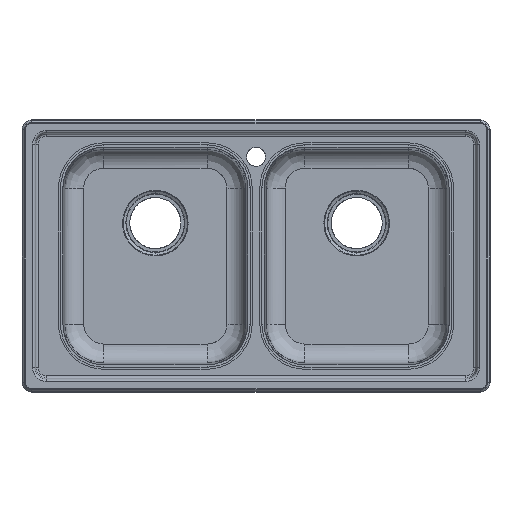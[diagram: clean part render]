
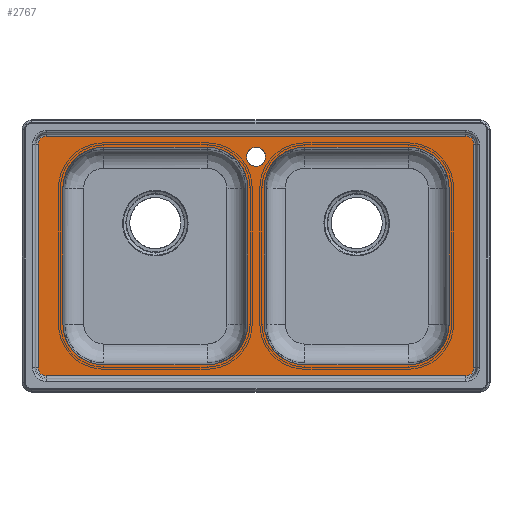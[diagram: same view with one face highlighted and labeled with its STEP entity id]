
A CAD part, top view. The second image highlights one B-rep face of the part: STEP entity #2767.
In plain terms, the highlighted planar face has unit normal (0, 0, 1).
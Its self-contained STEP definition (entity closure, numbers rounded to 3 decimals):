
#2389=CARTESIAN_POINT('Axis2P3D Location',(385.5,205.5,6.)) ;
#2393=CARTESIAN_POINT('Vertex',(385.5,220.431,6.)) ;
#2395=CARTESIAN_POINT('Vertex',(400.431,205.5,6.)) ;
#2420=CARTESIAN_POINT('Line Origine',(400.431,0.,6.)) ;
#2424=CARTESIAN_POINT('Vertex',(400.431,-205.5,6.)) ;
#2444=CARTESIAN_POINT('Axis2P3D Location',(385.5,-205.5,6.)) ;
#2448=CARTESIAN_POINT('Vertex',(385.5,-220.431,6.)) ;
#2468=CARTESIAN_POINT('Line Origine',(0.,-220.431,6.)) ;
#2472=CARTESIAN_POINT('Vertex',(-385.5,-220.431,6.)) ;
#2492=CARTESIAN_POINT('Axis2P3D Location',(-385.5,-205.5,6.)) ;
#2496=CARTESIAN_POINT('Vertex',(-400.431,-205.5,6.)) ;
#2516=CARTESIAN_POINT('Line Origine',(-400.431,0.,6.)) ;
#2520=CARTESIAN_POINT('Vertex',(-400.431,205.5,6.)) ;
#2540=CARTESIAN_POINT('Axis2P3D Location',(-385.5,205.5,6.)) ;
#2544=CARTESIAN_POINT('Vertex',(-385.5,220.431,6.)) ;
#2564=CARTESIAN_POINT('Line Origine',(0.,220.431,6.)) ;
#2602=CARTESIAN_POINT('Axis2P3D Location',(0.,0.,6.)) ;
#2617=CARTESIAN_POINT('Axis2P3D Location',(0.,182.3,6.)) ;
#2621=CARTESIAN_POINT('Vertex',(17.5,182.3,6.)) ;
#2623=CARTESIAN_POINT('Vertex',(-17.5,182.3,6.)) ;
#2626=CARTESIAN_POINT('Axis2P3D Location',(0.,182.3,6.)) ;
#2635=CARTESIAN_POINT('Axis2P3D Location',(-89.5,-125.5,6.)) ;
#2639=CARTESIAN_POINT('Vertex',(-89.5,-199.8,6.)) ;
#2641=CARTESIAN_POINT('Vertex',(-15.2,-125.5,6.)) ;
#2644=CARTESIAN_POINT('Line Origine',(-185.,-199.8,6.)) ;
#2648=CARTESIAN_POINT('Vertex',(-280.5,-199.8,6.)) ;
#2651=CARTESIAN_POINT('Axis2P3D Location',(-280.5,-125.5,6.)) ;
#2655=CARTESIAN_POINT('Vertex',(-354.8,-125.5,6.)) ;
#2658=CARTESIAN_POINT('Line Origine',(-354.8,0.,6.)) ;
#2662=CARTESIAN_POINT('Vertex',(-354.8,125.5,6.)) ;
#2665=CARTESIAN_POINT('Axis2P3D Location',(-280.5,125.5,6.)) ;
#2669=CARTESIAN_POINT('Vertex',(-280.5,199.8,6.)) ;
#2672=CARTESIAN_POINT('Line Origine',(-185.,199.8,6.)) ;
#2676=CARTESIAN_POINT('Vertex',(-89.5,199.8,6.)) ;
#2679=CARTESIAN_POINT('Axis2P3D Location',(-89.5,125.5,6.)) ;
#2683=CARTESIAN_POINT('Vertex',(-15.2,125.5,6.)) ;
#2686=CARTESIAN_POINT('Line Origine',(-15.2,0.,6.)) ;
#2701=CARTESIAN_POINT('Line Origine',(185.,199.8,6.)) ;
#2705=CARTESIAN_POINT('Vertex',(280.5,199.8,6.)) ;
#2707=CARTESIAN_POINT('Vertex',(89.5,199.8,6.)) ;
#2710=CARTESIAN_POINT('Axis2P3D Location',(280.5,125.5,6.)) ;
#2714=CARTESIAN_POINT('Vertex',(354.8,125.5,6.)) ;
#2717=CARTESIAN_POINT('Line Origine',(354.8,0.,6.)) ;
#2721=CARTESIAN_POINT('Vertex',(354.8,-125.5,6.)) ;
#2724=CARTESIAN_POINT('Axis2P3D Location',(280.5,-125.5,6.)) ;
#2728=CARTESIAN_POINT('Vertex',(280.5,-199.8,6.)) ;
#2731=CARTESIAN_POINT('Line Origine',(185.,-199.8,6.)) ;
#2735=CARTESIAN_POINT('Vertex',(89.5,-199.8,6.)) ;
#2738=CARTESIAN_POINT('Axis2P3D Location',(89.5,-125.5,6.)) ;
#2742=CARTESIAN_POINT('Vertex',(15.2,-125.5,6.)) ;
#2745=CARTESIAN_POINT('Line Origine',(15.2,0.,6.)) ;
#2749=CARTESIAN_POINT('Vertex',(15.2,125.5,6.)) ;
#2752=CARTESIAN_POINT('Axis2P3D Location',(89.5,125.5,6.)) ;
#2390=DIRECTION('Axis2P3D Direction',(0.,0.,1.)) ;
#2421=DIRECTION('Vector Direction',(0.,-1.,0.)) ;
#2445=DIRECTION('Axis2P3D Direction',(0.,0.,1.)) ;
#2469=DIRECTION('Vector Direction',(-1.,0.,0.)) ;
#2493=DIRECTION('Axis2P3D Direction',(0.,-0.,1.)) ;
#2517=DIRECTION('Vector Direction',(0.,1.,0.)) ;
#2541=DIRECTION('Axis2P3D Direction',(-0.,0.,1.)) ;
#2565=DIRECTION('Vector Direction',(1.,0.,0.)) ;
#2603=DIRECTION('Axis2P3D Direction',(0.,0.,1.)) ;
#2604=DIRECTION('Axis2P3D XDirection',(1.,0.,0.)) ;
#2618=DIRECTION('Axis2P3D Direction',(0.,0.,1.)) ;
#2627=DIRECTION('Axis2P3D Direction',(0.,0.,1.)) ;
#2636=DIRECTION('Axis2P3D Direction',(0.,0.,1.)) ;
#2645=DIRECTION('Vector Direction',(-1.,0.,0.)) ;
#2652=DIRECTION('Axis2P3D Direction',(0.,0.,1.)) ;
#2659=DIRECTION('Vector Direction',(0.,1.,0.)) ;
#2666=DIRECTION('Axis2P3D Direction',(0.,0.,1.)) ;
#2673=DIRECTION('Vector Direction',(1.,0.,0.)) ;
#2680=DIRECTION('Axis2P3D Direction',(0.,0.,1.)) ;
#2687=DIRECTION('Vector Direction',(0.,-1.,0.)) ;
#2702=DIRECTION('Vector Direction',(-1.,0.,0.)) ;
#2711=DIRECTION('Axis2P3D Direction',(0.,0.,1.)) ;
#2718=DIRECTION('Vector Direction',(0.,1.,0.)) ;
#2725=DIRECTION('Axis2P3D Direction',(0.,0.,1.)) ;
#2732=DIRECTION('Vector Direction',(1.,0.,0.)) ;
#2739=DIRECTION('Axis2P3D Direction',(0.,0.,1.)) ;
#2746=DIRECTION('Vector Direction',(0.,-1.,0.)) ;
#2753=DIRECTION('Axis2P3D Direction',(0.,0.,1.)) ;
#2391=AXIS2_PLACEMENT_3D('Circle Axis2P3D',#2389,#2390,$) ;
#2446=AXIS2_PLACEMENT_3D('Circle Axis2P3D',#2444,#2445,$) ;
#2494=AXIS2_PLACEMENT_3D('Circle Axis2P3D',#2492,#2493,$) ;
#2542=AXIS2_PLACEMENT_3D('Circle Axis2P3D',#2540,#2541,$) ;
#2605=AXIS2_PLACEMENT_3D('Plane Axis2P3D',#2602,#2603,#2604) ;
#2619=AXIS2_PLACEMENT_3D('Circle Axis2P3D',#2617,#2618,$) ;
#2628=AXIS2_PLACEMENT_3D('Circle Axis2P3D',#2626,#2627,$) ;
#2637=AXIS2_PLACEMENT_3D('Circle Axis2P3D',#2635,#2636,$) ;
#2653=AXIS2_PLACEMENT_3D('Circle Axis2P3D',#2651,#2652,$) ;
#2667=AXIS2_PLACEMENT_3D('Circle Axis2P3D',#2665,#2666,$) ;
#2681=AXIS2_PLACEMENT_3D('Circle Axis2P3D',#2679,#2680,$) ;
#2712=AXIS2_PLACEMENT_3D('Circle Axis2P3D',#2710,#2711,$) ;
#2726=AXIS2_PLACEMENT_3D('Circle Axis2P3D',#2724,#2725,$) ;
#2740=AXIS2_PLACEMENT_3D('Circle Axis2P3D',#2738,#2739,$) ;
#2754=AXIS2_PLACEMENT_3D('Circle Axis2P3D',#2752,#2753,$) ;
#2608=ORIENTED_EDGE('',*,*,#2568,.F.) ;
#2609=ORIENTED_EDGE('',*,*,#2546,.F.) ;
#2610=ORIENTED_EDGE('',*,*,#2522,.F.) ;
#2611=ORIENTED_EDGE('',*,*,#2498,.F.) ;
#2612=ORIENTED_EDGE('',*,*,#2474,.F.) ;
#2613=ORIENTED_EDGE('',*,*,#2450,.F.) ;
#2614=ORIENTED_EDGE('',*,*,#2426,.F.) ;
#2615=ORIENTED_EDGE('',*,*,#2397,.F.) ;
#2632=ORIENTED_EDGE('',*,*,#2625,.F.) ;
#2633=ORIENTED_EDGE('',*,*,#2630,.F.) ;
#2692=ORIENTED_EDGE('',*,*,#2643,.F.) ;
#2693=ORIENTED_EDGE('',*,*,#2650,.F.) ;
#2694=ORIENTED_EDGE('',*,*,#2657,.F.) ;
#2695=ORIENTED_EDGE('',*,*,#2664,.F.) ;
#2696=ORIENTED_EDGE('',*,*,#2671,.F.) ;
#2697=ORIENTED_EDGE('',*,*,#2678,.F.) ;
#2698=ORIENTED_EDGE('',*,*,#2685,.F.) ;
#2699=ORIENTED_EDGE('',*,*,#2690,.F.) ;
#2758=ORIENTED_EDGE('',*,*,#2709,.F.) ;
#2759=ORIENTED_EDGE('',*,*,#2716,.F.) ;
#2760=ORIENTED_EDGE('',*,*,#2723,.F.) ;
#2761=ORIENTED_EDGE('',*,*,#2730,.F.) ;
#2762=ORIENTED_EDGE('',*,*,#2737,.F.) ;
#2763=ORIENTED_EDGE('',*,*,#2744,.F.) ;
#2764=ORIENTED_EDGE('',*,*,#2751,.F.) ;
#2765=ORIENTED_EDGE('',*,*,#2756,.F.) ;
#2634=FACE_BOUND('',#2631,.T.) ;
#2700=FACE_BOUND('',#2691,.T.) ;
#2766=FACE_BOUND('',#2757,.T.) ;
#2422=VECTOR('Line Direction',#2421,1.) ;
#2470=VECTOR('Line Direction',#2469,1.) ;
#2518=VECTOR('Line Direction',#2517,1.) ;
#2566=VECTOR('Line Direction',#2565,1.) ;
#2646=VECTOR('Line Direction',#2645,1.) ;
#2660=VECTOR('Line Direction',#2659,1.) ;
#2674=VECTOR('Line Direction',#2673,1.) ;
#2688=VECTOR('Line Direction',#2687,1.) ;
#2703=VECTOR('Line Direction',#2702,1.) ;
#2719=VECTOR('Line Direction',#2718,1.) ;
#2733=VECTOR('Line Direction',#2732,1.) ;
#2747=VECTOR('Line Direction',#2746,1.) ;
#2767=ADVANCED_FACE('PartBody',(#2616,#2634,#2700,#2766),#2606,.T.) ;
#2392=CIRCLE('generated circle',#2391,14.931) ;
#2447=CIRCLE('generated circle',#2446,14.931) ;
#2495=CIRCLE('generated circle',#2494,14.931) ;
#2543=CIRCLE('generated circle',#2542,14.931) ;
#2620=CIRCLE('generated circle',#2619,17.5) ;
#2629=CIRCLE('generated circle',#2628,17.5) ;
#2638=CIRCLE('generated circle',#2637,74.3) ;
#2654=CIRCLE('generated circle',#2653,74.3) ;
#2668=CIRCLE('generated circle',#2667,74.3) ;
#2682=CIRCLE('generated circle',#2681,74.3) ;
#2713=CIRCLE('generated circle',#2712,74.3) ;
#2727=CIRCLE('generated circle',#2726,74.3) ;
#2741=CIRCLE('generated circle',#2740,74.3) ;
#2755=CIRCLE('generated circle',#2754,74.3) ;
#2397=EDGE_CURVE('',#2394,#2396,#2392,.F.) ;
#2426=EDGE_CURVE('',#2396,#2425,#2423,.T.) ;
#2450=EDGE_CURVE('',#2425,#2449,#2447,.F.) ;
#2474=EDGE_CURVE('',#2449,#2473,#2471,.T.) ;
#2498=EDGE_CURVE('',#2473,#2497,#2495,.F.) ;
#2522=EDGE_CURVE('',#2497,#2521,#2519,.T.) ;
#2546=EDGE_CURVE('',#2521,#2545,#2543,.F.) ;
#2568=EDGE_CURVE('',#2545,#2394,#2567,.T.) ;
#2625=EDGE_CURVE('',#2622,#2624,#2620,.T.) ;
#2630=EDGE_CURVE('',#2624,#2622,#2629,.T.) ;
#2643=EDGE_CURVE('',#2640,#2642,#2638,.T.) ;
#2650=EDGE_CURVE('',#2649,#2640,#2647,.F.) ;
#2657=EDGE_CURVE('',#2656,#2649,#2654,.T.) ;
#2664=EDGE_CURVE('',#2663,#2656,#2661,.F.) ;
#2671=EDGE_CURVE('',#2670,#2663,#2668,.T.) ;
#2678=EDGE_CURVE('',#2677,#2670,#2675,.F.) ;
#2685=EDGE_CURVE('',#2684,#2677,#2682,.T.) ;
#2690=EDGE_CURVE('',#2642,#2684,#2689,.F.) ;
#2709=EDGE_CURVE('',#2706,#2708,#2704,.T.) ;
#2716=EDGE_CURVE('',#2715,#2706,#2713,.T.) ;
#2723=EDGE_CURVE('',#2722,#2715,#2720,.T.) ;
#2730=EDGE_CURVE('',#2729,#2722,#2727,.T.) ;
#2737=EDGE_CURVE('',#2736,#2729,#2734,.T.) ;
#2744=EDGE_CURVE('',#2743,#2736,#2741,.T.) ;
#2751=EDGE_CURVE('',#2750,#2743,#2748,.T.) ;
#2756=EDGE_CURVE('',#2708,#2750,#2755,.T.) ;
#2607=EDGE_LOOP('',(#2608,#2609,#2610,#2611,#2612,#2613,#2614,#2615)) ;
#2631=EDGE_LOOP('',(#2632,#2633)) ;
#2691=EDGE_LOOP('',(#2692,#2693,#2694,#2695,#2696,#2697,#2698,#2699)) ;
#2757=EDGE_LOOP('',(#2758,#2759,#2760,#2761,#2762,#2763,#2764,#2765)) ;
#2616=FACE_OUTER_BOUND('',#2607,.T.) ;
#2423=LINE('Line',#2420,#2422) ;
#2471=LINE('Line',#2468,#2470) ;
#2519=LINE('Line',#2516,#2518) ;
#2567=LINE('Line',#2564,#2566) ;
#2647=LINE('Line',#2644,#2646) ;
#2661=LINE('Line',#2658,#2660) ;
#2675=LINE('Line',#2672,#2674) ;
#2689=LINE('Line',#2686,#2688) ;
#2704=LINE('Line',#2701,#2703) ;
#2720=LINE('Line',#2717,#2719) ;
#2734=LINE('Line',#2731,#2733) ;
#2748=LINE('Line',#2745,#2747) ;
#2606=PLANE('',#2605) ;
#2394=VERTEX_POINT('',#2393) ;
#2396=VERTEX_POINT('',#2395) ;
#2425=VERTEX_POINT('',#2424) ;
#2449=VERTEX_POINT('',#2448) ;
#2473=VERTEX_POINT('',#2472) ;
#2497=VERTEX_POINT('',#2496) ;
#2521=VERTEX_POINT('',#2520) ;
#2545=VERTEX_POINT('',#2544) ;
#2622=VERTEX_POINT('',#2621) ;
#2624=VERTEX_POINT('',#2623) ;
#2640=VERTEX_POINT('',#2639) ;
#2642=VERTEX_POINT('',#2641) ;
#2649=VERTEX_POINT('',#2648) ;
#2656=VERTEX_POINT('',#2655) ;
#2663=VERTEX_POINT('',#2662) ;
#2670=VERTEX_POINT('',#2669) ;
#2677=VERTEX_POINT('',#2676) ;
#2684=VERTEX_POINT('',#2683) ;
#2706=VERTEX_POINT('',#2705) ;
#2708=VERTEX_POINT('',#2707) ;
#2715=VERTEX_POINT('',#2714) ;
#2722=VERTEX_POINT('',#2721) ;
#2729=VERTEX_POINT('',#2728) ;
#2736=VERTEX_POINT('',#2735) ;
#2743=VERTEX_POINT('',#2742) ;
#2750=VERTEX_POINT('',#2749) ;
